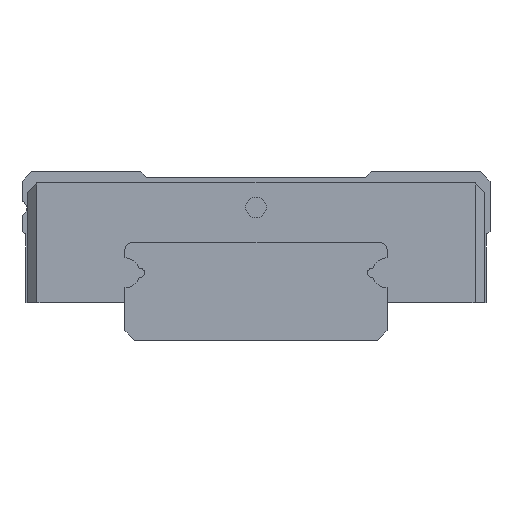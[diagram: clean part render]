
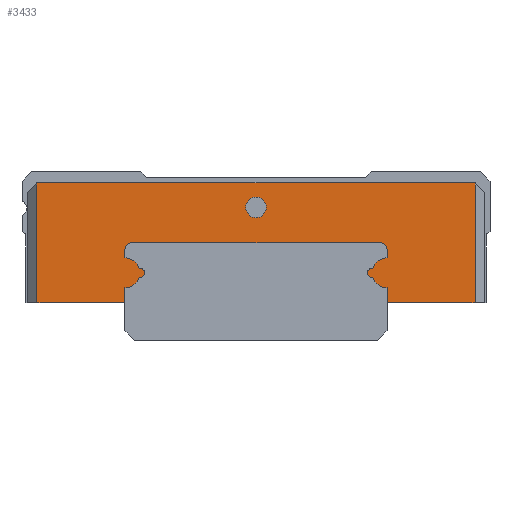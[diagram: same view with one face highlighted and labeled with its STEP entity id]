
A CAD part, left-side view. The second image highlights one B-rep face of the part: STEP entity #3433.
In plain terms, the highlighted planar face has unit normal (-1, 0, 0).
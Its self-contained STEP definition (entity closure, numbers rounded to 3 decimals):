
#1364=CARTESIAN_POINT('',(0.0,-11.7,2.));
#1365=VERTEX_POINT('',#1364);
#1372=CARTESIAN_POINT('',(0.0,-7.,2.));
#1373=VERTEX_POINT('',#1372);
#1374=CARTESIAN_POINT('',(0.0,-7.,2.));
#1375=DIRECTION('',(0.0,-1.0,0.0));
#1376=VECTOR('',#1375,4.7);
#1377=LINE('',#1374,#1376);
#1378=EDGE_CURVE('',#1373,#1365,#1377,.T.);
#1475=CARTESIAN_POINT('',(0.0,11.7,8.4));
#1476=VERTEX_POINT('',#1475);
#1483=CARTESIAN_POINT('',(0.0,-11.7,8.4));
#1484=VERTEX_POINT('',#1483);
#1485=CARTESIAN_POINT('',(0.0,-11.7,8.4));
#1486=DIRECTION('',(0.0,1.0,0.0));
#1487=VECTOR('',#1486,23.4);
#1488=LINE('',#1485,#1487);
#1489=EDGE_CURVE('',#1484,#1476,#1488,.T.);
#1632=CARTESIAN_POINT('',(0.0,7.,2.));
#1633=VERTEX_POINT('',#1632);
#1640=CARTESIAN_POINT('',(0.0,11.7,2.));
#1641=VERTEX_POINT('',#1640);
#1642=CARTESIAN_POINT('',(0.0,11.7,2.));
#1643=DIRECTION('',(0.0,-1.0,0.0));
#1644=VECTOR('',#1643,4.7);
#1645=LINE('',#1642,#1644);
#1646=EDGE_CURVE('',#1641,#1633,#1645,.T.);
#1927=CARTESIAN_POINT('',(0.0,0.55,7.1));
#1928=VERTEX_POINT('',#1927);
#1929=CARTESIAN_POINT('',(0.0,0.,7.1));
#1930=DIRECTION('',(1.0,0.0,0.0));
#1931=DIRECTION('',(0.0,-1.0,0.0));
#1932=AXIS2_PLACEMENT_3D('',#1929,#1930,#1931);
#1933=CIRCLE('',#1932,0.55);
#1934=EDGE_CURVE('',#1928,#1928,#1933,.T.);
#2905=CARTESIAN_POINT('',(0.0,11.7,8.4));
#2906=DIRECTION('',(0.0,0.0,-1.0));
#2907=VECTOR('',#2906,6.4);
#2908=LINE('',#2905,#2907);
#2909=EDGE_CURVE('',#1476,#1641,#2908,.T.);
#2939=CARTESIAN_POINT('',(0.0,-11.7,2.));
#2940=DIRECTION('',(0.0,0.0,1.0));
#2941=VECTOR('',#2940,6.4);
#2942=LINE('',#2939,#2941);
#2943=EDGE_CURVE('',#1365,#1484,#2942,.T.);
#2979=CARTESIAN_POINT('',(0.0,7.,2.8));
#2980=VERTEX_POINT('',#2979);
#2987=CARTESIAN_POINT('',(0.0,7.,2.));
#2988=DIRECTION('',(0.0,0.0,1.0));
#2989=VECTOR('',#2988,0.8);
#2990=LINE('',#2987,#2989);
#2991=EDGE_CURVE('',#1633,#2980,#2990,.T.);
#3011=CARTESIAN_POINT('',(0.0,6.239,3.353));
#3012=VERTEX_POINT('',#3011);
#3019=CARTESIAN_POINT('',(0.0,7.,3.6));
#3020=DIRECTION('',(-1.0,0.0,0.0));
#3021=DIRECTION('',(0.0,0.951,0.309));
#3022=AXIS2_PLACEMENT_3D('',#3019,#3020,#3021);
#3023=CIRCLE('',#3022,0.8);
#3024=EDGE_CURVE('',#2980,#3012,#3023,.T.);
#3044=CARTESIAN_POINT('',(0.0,6.239,3.847));
#3045=VERTEX_POINT('',#3044);
#3052=CARTESIAN_POINT('',(0.0,6.2,3.6));
#3053=DIRECTION('',(-1.,0.0,0.0));
#3054=DIRECTION('',(0.0,-0.156,-0.988));
#3055=AXIS2_PLACEMENT_3D('',#3052,#3053,#3054);
#3056=CIRCLE('',#3055,0.25);
#3057=EDGE_CURVE('',#3012,#3045,#3056,.T.);
#3077=CARTESIAN_POINT('',(0.0,7.,4.4));
#3078=VERTEX_POINT('',#3077);
#3085=CARTESIAN_POINT('',(0.0,7.,3.6));
#3086=DIRECTION('',(-1.0,0.0,0.0));
#3087=DIRECTION('',(0.0,0.0,-1.0));
#3088=AXIS2_PLACEMENT_3D('',#3085,#3086,#3087);
#3089=CIRCLE('',#3088,0.8);
#3090=EDGE_CURVE('',#3045,#3078,#3089,.T.);
#3109=CARTESIAN_POINT('',(0.0,7.,4.85));
#3110=VERTEX_POINT('',#3109);
#3117=CARTESIAN_POINT('',(0.0,7.,4.4));
#3118=DIRECTION('',(0.0,0.0,1.0));
#3119=VECTOR('',#3118,0.45);
#3120=LINE('',#3117,#3119);
#3121=EDGE_CURVE('',#3078,#3110,#3120,.T.);
#3141=CARTESIAN_POINT('',(0.0,6.65,5.2));
#3142=VERTEX_POINT('',#3141);
#3149=CARTESIAN_POINT('',(0.0,6.65,4.85));
#3150=DIRECTION('',(1.0,0.0,0.0));
#3151=DIRECTION('',(0.0,1.0,0.0));
#3152=AXIS2_PLACEMENT_3D('',#3149,#3150,#3151);
#3153=CIRCLE('',#3152,0.35);
#3154=EDGE_CURVE('',#3110,#3142,#3153,.T.);
#3173=CARTESIAN_POINT('',(0.0,-6.65,5.2));
#3174=VERTEX_POINT('',#3173);
#3181=CARTESIAN_POINT('',(0.0,6.65,5.2));
#3182=DIRECTION('',(0.0,-1.0,0.0));
#3183=VECTOR('',#3182,13.3);
#3184=LINE('',#3181,#3183);
#3185=EDGE_CURVE('',#3142,#3174,#3184,.T.);
#3205=CARTESIAN_POINT('',(0.0,-7.,4.85));
#3206=VERTEX_POINT('',#3205);
#3213=CARTESIAN_POINT('',(0.0,-6.65,4.85));
#3214=DIRECTION('',(1.0,0.0,0.0));
#3215=DIRECTION('',(0.0,0.0,1.0));
#3216=AXIS2_PLACEMENT_3D('',#3213,#3214,#3215);
#3217=CIRCLE('',#3216,0.35);
#3218=EDGE_CURVE('',#3174,#3206,#3217,.T.);
#3237=CARTESIAN_POINT('',(0.0,-7.,4.4));
#3238=VERTEX_POINT('',#3237);
#3245=CARTESIAN_POINT('',(0.0,-7.,4.85));
#3246=DIRECTION('',(0.0,0.0,-1.0));
#3247=VECTOR('',#3246,0.45);
#3248=LINE('',#3245,#3247);
#3249=EDGE_CURVE('',#3206,#3238,#3248,.T.);
#3269=CARTESIAN_POINT('',(0.0,-6.239,3.847));
#3270=VERTEX_POINT('',#3269);
#3277=CARTESIAN_POINT('',(0.0,-7.,3.6));
#3278=DIRECTION('',(-1.,0.0,0.0));
#3279=DIRECTION('',(0.0,-0.951,-0.309));
#3280=AXIS2_PLACEMENT_3D('',#3277,#3278,#3279);
#3281=CIRCLE('',#3280,0.8);
#3282=EDGE_CURVE('',#3238,#3270,#3281,.T.);
#3302=CARTESIAN_POINT('',(0.0,-6.239,3.353));
#3303=VERTEX_POINT('',#3302);
#3310=CARTESIAN_POINT('',(0.0,-6.2,3.6));
#3311=DIRECTION('',(-1.,0.0,0.0));
#3312=DIRECTION('',(0.0,0.156,0.988));
#3313=AXIS2_PLACEMENT_3D('',#3310,#3311,#3312);
#3314=CIRCLE('',#3313,0.25);
#3315=EDGE_CURVE('',#3270,#3303,#3314,.T.);
#3335=CARTESIAN_POINT('',(0.0,-7.,2.8));
#3336=VERTEX_POINT('',#3335);
#3343=CARTESIAN_POINT('',(0.0,-7.,3.6));
#3344=DIRECTION('',(-1.0,0.0,0.0));
#3345=DIRECTION('',(0.0,0.0,1.0));
#3346=AXIS2_PLACEMENT_3D('',#3343,#3344,#3345);
#3347=CIRCLE('',#3346,0.8);
#3348=EDGE_CURVE('',#3303,#3336,#3347,.T.);
#3366=CARTESIAN_POINT('',(0.0,-7.,2.8));
#3367=DIRECTION('',(0.0,0.0,-1.0));
#3368=VECTOR('',#3367,0.8);
#3369=LINE('',#3366,#3368);
#3370=EDGE_CURVE('',#3336,#1373,#3369,.T.);
#3405=CARTESIAN_POINT('',(0.0,0.,5.646));
#3406=DIRECTION('',(1.0,0.0,0.0));
#3407=DIRECTION('',(0.0,0.0,-1.0));
#3408=AXIS2_PLACEMENT_3D('',#3405,#3406,#3407);
#3409=PLANE('',#3408);
#3410=ORIENTED_EDGE('',*,*,#1378,.T.);
#3411=ORIENTED_EDGE('',*,*,#2943,.T.);
#3412=ORIENTED_EDGE('',*,*,#1489,.T.);
#3413=ORIENTED_EDGE('',*,*,#2909,.T.);
#3414=ORIENTED_EDGE('',*,*,#1646,.T.);
#3415=ORIENTED_EDGE('',*,*,#2991,.T.);
#3416=ORIENTED_EDGE('',*,*,#3024,.T.);
#3417=ORIENTED_EDGE('',*,*,#3057,.T.);
#3418=ORIENTED_EDGE('',*,*,#3090,.T.);
#3419=ORIENTED_EDGE('',*,*,#3121,.T.);
#3420=ORIENTED_EDGE('',*,*,#3154,.T.);
#3421=ORIENTED_EDGE('',*,*,#3185,.T.);
#3422=ORIENTED_EDGE('',*,*,#3218,.T.);
#3423=ORIENTED_EDGE('',*,*,#3249,.T.);
#3424=ORIENTED_EDGE('',*,*,#3282,.T.);
#3425=ORIENTED_EDGE('',*,*,#3315,.T.);
#3426=ORIENTED_EDGE('',*,*,#3348,.T.);
#3427=ORIENTED_EDGE('',*,*,#3370,.T.);
#3428=EDGE_LOOP('',(#3410,#3411,#3412,#3413,#3414,#3415,#3416,#3417,#3418,#3419,#3420,#3421,#3422,#3423,#3424,#3425,#3426,#3427));
#3429=FACE_OUTER_BOUND('',#3428,.T.);
#3430=ORIENTED_EDGE('',*,*,#1934,.T.);
#3431=EDGE_LOOP('',(#3430));
#3432=FACE_BOUND('',#3431,.T.);
#3433=ADVANCED_FACE('',(#3429,#3432),#3409,.F.);
